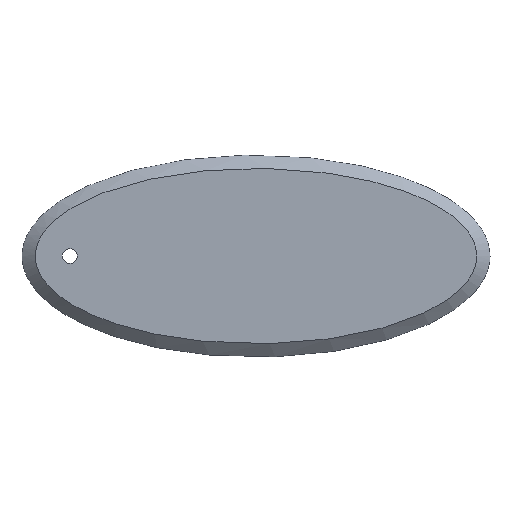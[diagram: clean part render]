
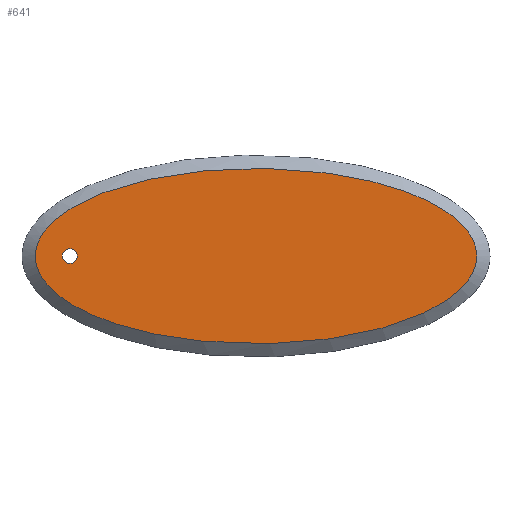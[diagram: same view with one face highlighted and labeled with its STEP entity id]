
A CAD part, top view. The second image highlights one B-rep face of the part: STEP entity #641.
In plain terms, the highlighted planar face has unit normal (0, 0, 1).
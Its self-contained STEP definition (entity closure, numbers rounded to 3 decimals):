
#49 = B_SPLINE_SURFACE_WITH_KNOTS('',14,1,(
    (#50,#51)
    ,(#52,#53)
    ,(#54,#55)
    ,(#56,#57)
    ,(#58,#59)
    ,(#60,#61)
    ,(#62,#63)
    ,(#64,#65)
    ,(#66,#67)
    ,(#68,#69)
    ,(#70,#71)
    ,(#72,#73)
    ,(#74,#75)
    ,(#76,#77)
    ,(#78,#79)
    ,(#80,#81)
    ,(#82,#83)
    ,(#84,#85)
    ,(#86,#87)
    ,(#88,#89)
    ,(#90,#91)
    ,(#92,#93)
    ,(#94,#95)
    ,(#96,#97)
    ,(#98,#99)
    ,(#100,#101)
    ,(#102,#103)
    ,(#104,#105
    )),.UNSPECIFIED.,.T.,.F.,.F.,(15,13,15),(2,2),(0.,3.142,
    6.283),(0.,1.),.UNSPECIFIED.);
#50 = CARTESIAN_POINT('',(88.,0.,6.4));
#51 = CARTESIAN_POINT('',(83.,0.,10.4));
#52 = CARTESIAN_POINT('',(88.,8.527,6.4));
#53 = CARTESIAN_POINT('',(83.,7.405,10.4));
#54 = CARTESIAN_POINT('',(83.228,17.054,6.4));
#55 = CARTESIAN_POINT('',(78.499,14.81,10.4));
#56 = CARTESIAN_POINT('',(73.684,25.042,6.4));
#57 = CARTESIAN_POINT('',(69.497,21.747,10.4));
#58 = CARTESIAN_POINT('',(59.724,31.951,6.4));
#59 = CARTESIAN_POINT('',(56.331,27.747,10.4));
#60 = CARTESIAN_POINT('',(42.063,37.289,6.4));
#61 = CARTESIAN_POINT('',(39.673,32.383,10.4));
#62 = CARTESIAN_POINT('',(21.731,40.664,6.4));
#63 = CARTESIAN_POINT('',(20.497,35.313,10.4));
#64 = CARTESIAN_POINT('',(0.,41.818,6.4));
#65 = CARTESIAN_POINT('',(0.,36.316,10.4));
#66 = CARTESIAN_POINT('',(-21.731,40.664,6.4));
#67 = CARTESIAN_POINT('',(-20.497,35.313,10.4));
#68 = CARTESIAN_POINT('',(-42.063,37.289,6.4));
#69 = CARTESIAN_POINT('',(-39.673,32.383,10.4));
#70 = CARTESIAN_POINT('',(-59.724,31.951,6.4));
#71 = CARTESIAN_POINT('',(-56.331,27.747,10.4));
#72 = CARTESIAN_POINT('',(-73.684,25.042,6.4));
#73 = CARTESIAN_POINT('',(-69.497,21.747,10.4));
#74 = CARTESIAN_POINT('',(-83.228,17.054,6.4));
#75 = CARTESIAN_POINT('',(-78.499,14.81,10.4));
#76 = CARTESIAN_POINT('',(-88.,8.527,6.4));
#77 = CARTESIAN_POINT('',(-83.,7.405,10.4));
#78 = CARTESIAN_POINT('',(-88.,-8.527,6.4));
#79 = CARTESIAN_POINT('',(-83.,-7.405,10.4));
#80 = CARTESIAN_POINT('',(-83.228,-17.054,6.4));
#81 = CARTESIAN_POINT('',(-78.499,-14.81,10.4));
#82 = CARTESIAN_POINT('',(-73.684,-25.042,6.4));
#83 = CARTESIAN_POINT('',(-69.497,-21.747,10.4));
#84 = CARTESIAN_POINT('',(-59.724,-31.951,6.4));
#85 = CARTESIAN_POINT('',(-56.331,-27.747,10.4));
#86 = CARTESIAN_POINT('',(-42.063,-37.289,6.4));
#87 = CARTESIAN_POINT('',(-39.673,-32.383,10.4));
#88 = CARTESIAN_POINT('',(-21.731,-40.664,6.4));
#89 = CARTESIAN_POINT('',(-20.497,-35.313,10.4));
#90 = CARTESIAN_POINT('',(0.,-41.818,6.4));
#91 = CARTESIAN_POINT('',(0.,-36.316,10.4));
#92 = CARTESIAN_POINT('',(21.731,-40.664,6.4));
#93 = CARTESIAN_POINT('',(20.497,-35.313,10.4));
#94 = CARTESIAN_POINT('',(42.063,-37.289,6.4));
#95 = CARTESIAN_POINT('',(39.673,-32.383,10.4));
#96 = CARTESIAN_POINT('',(59.724,-31.951,6.4));
#97 = CARTESIAN_POINT('',(56.331,-27.747,10.4));
#98 = CARTESIAN_POINT('',(73.684,-25.042,6.4));
#99 = CARTESIAN_POINT('',(69.497,-21.747,10.4));
#100 = CARTESIAN_POINT('',(83.228,-17.054,6.4));
#101 = CARTESIAN_POINT('',(78.499,-14.81,10.4));
#102 = CARTESIAN_POINT('',(88.,-8.527,6.4));
#103 = CARTESIAN_POINT('',(83.,-7.405,10.4));
#104 = CARTESIAN_POINT('',(88.,0.,6.4));
#105 = CARTESIAN_POINT('',(83.,0.,10.4));
#126 = VERTEX_POINT('',#127);
#127 = CARTESIAN_POINT('',(83.,0.,10.4));
#147 = EDGE_CURVE('',#126,#126,#148,.T.);
#148 = SURFACE_CURVE('',#149,(#154,#161),.PCURVE_S1.);
#149 = ELLIPSE('',#150,83.,33.);
#150 = AXIS2_PLACEMENT_3D('',#151,#152,#153);
#151 = CARTESIAN_POINT('',(0.,0.,10.4));
#152 = DIRECTION('',(0.,0.,1.));
#153 = DIRECTION('',(1.,0.,-0.));
#154 = PCURVE('',#49,#155);
#155 = DEFINITIONAL_REPRESENTATION('',(#156),#160);
#156 = LINE('',#157,#158);
#157 = CARTESIAN_POINT('',(0.,1.));
#158 = VECTOR('',#159,1.);
#159 = DIRECTION('',(1.,0.));
#160 = ( GEOMETRIC_REPRESENTATION_CONTEXT(2) 
PARAMETRIC_REPRESENTATION_CONTEXT() REPRESENTATION_CONTEXT('2D SPACE',''
  ) );
#161 = PCURVE('',#162,#167);
#162 = PLANE('',#163);
#163 = AXIS2_PLACEMENT_3D('',#164,#165,#166);
#164 = CARTESIAN_POINT('',(0.,0.,10.4));
#165 = DIRECTION('',(0.,0.,1.));
#166 = DIRECTION('',(1.,0.,-0.));
#167 = DEFINITIONAL_REPRESENTATION('',(#168),#172);
#168 = ELLIPSE('',#169,83.,33.);
#169 = AXIS2_PLACEMENT_2D('',#170,#171);
#170 = CARTESIAN_POINT('',(0.,0.));
#171 = DIRECTION('',(1.,0.));
#172 = ( GEOMETRIC_REPRESENTATION_CONTEXT(2) 
PARAMETRIC_REPRESENTATION_CONTEXT() REPRESENTATION_CONTEXT('2D SPACE',''
  ) );
#414 = CYLINDRICAL_SURFACE('',#415,2.8);
#415 = AXIS2_PLACEMENT_3D('',#416,#417,#418);
#416 = CARTESIAN_POINT('',(-70.,0.,-1.));
#417 = DIRECTION('',(0.,0.,1.));
#418 = DIRECTION('',(1.,0.,-0.));
#641 = ADVANCED_FACE('',(#642,#645),#162,.T.);
#642 = FACE_BOUND('',#643,.T.);
#643 = EDGE_LOOP('',(#644));
#644 = ORIENTED_EDGE('',*,*,#147,.T.);
#645 = FACE_BOUND('',#646,.T.);
#646 = EDGE_LOOP('',(#647));
#647 = ORIENTED_EDGE('',*,*,#648,.F.);
#648 = EDGE_CURVE('',#649,#649,#651,.T.);
#649 = VERTEX_POINT('',#650);
#650 = CARTESIAN_POINT('',(-67.2,0.,10.4));
#651 = SURFACE_CURVE('',#652,(#657,#664),.PCURVE_S1.);
#652 = CIRCLE('',#653,2.8);
#653 = AXIS2_PLACEMENT_3D('',#654,#655,#656);
#654 = CARTESIAN_POINT('',(-70.,0.,10.4));
#655 = DIRECTION('',(0.,0.,1.));
#656 = DIRECTION('',(1.,0.,-0.));
#657 = PCURVE('',#162,#658);
#658 = DEFINITIONAL_REPRESENTATION('',(#659),#663);
#659 = CIRCLE('',#660,2.8);
#660 = AXIS2_PLACEMENT_2D('',#661,#662);
#661 = CARTESIAN_POINT('',(-70.,0.));
#662 = DIRECTION('',(1.,0.));
#663 = ( GEOMETRIC_REPRESENTATION_CONTEXT(2) 
PARAMETRIC_REPRESENTATION_CONTEXT() REPRESENTATION_CONTEXT('2D SPACE',''
  ) );
#664 = PCURVE('',#414,#665);
#665 = DEFINITIONAL_REPRESENTATION('',(#666),#670);
#666 = LINE('',#667,#668);
#667 = CARTESIAN_POINT('',(0.,11.4));
#668 = VECTOR('',#669,1.);
#669 = DIRECTION('',(1.,0.));
#670 = ( GEOMETRIC_REPRESENTATION_CONTEXT(2) 
PARAMETRIC_REPRESENTATION_CONTEXT() REPRESENTATION_CONTEXT('2D SPACE',''
  ) );
